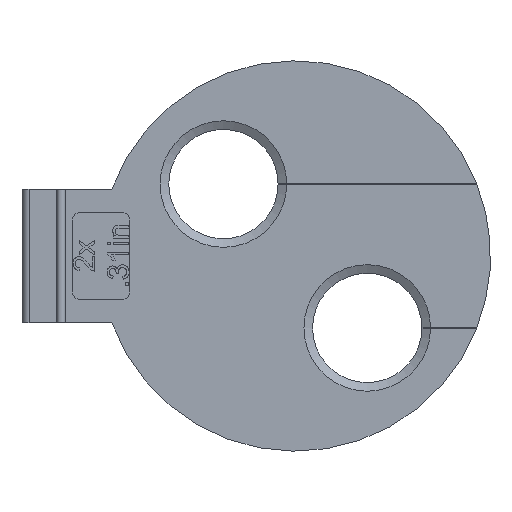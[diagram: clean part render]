
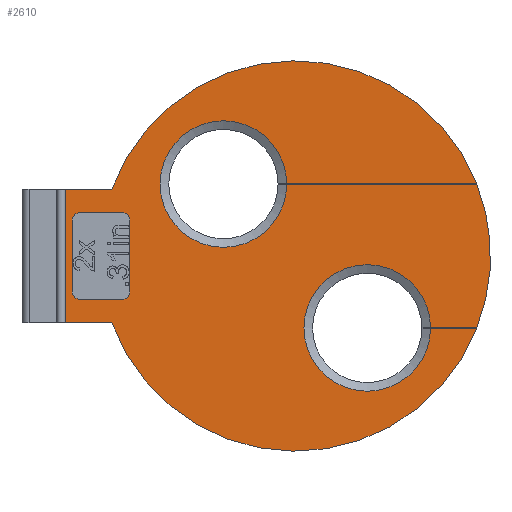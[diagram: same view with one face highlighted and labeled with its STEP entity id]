
A CAD part, left-side view. The second image highlights one B-rep face of the part: STEP entity #2610.
In plain terms, the highlighted planar face has unit normal (-1, 0, 0).
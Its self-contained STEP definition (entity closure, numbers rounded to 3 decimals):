
#40=FACE_BOUND('',#466,.T.);
#42=CIRCLE('',#2697,0.5);
#44=CIRCLE('',#2701,0.5);
#46=CIRCLE('',#2705,0.5);
#48=CIRCLE('',#2709,0.5);
#58=CIRCLE('',#2732,13.57);
#61=CIRCLE('',#2736,13.57);
#62=CIRCLE('',#2738,13.57);
#70=CIRCLE('',#2751,4.4);
#73=CIRCLE('',#2757,4.4);
#320=FACE_OUTER_BOUND('',#465,.T.);
#465=EDGE_LOOP('',(#2336,#2337,#2338,#2339,#2340,#2341,#2342,#2343,#2344,
#2345,#2346,#2347));
#466=EDGE_LOOP('',(#2348,#2349,#2350,#2351,#2352,#2353,#2354,#2355));
#648=LINE('',#4243,#915);
#652=LINE('',#4255,#919);
#656=LINE('',#4267,#923);
#660=LINE('',#4277,#927);
#665=LINE('',#4290,#932);
#675=LINE('',#4319,#942);
#683=LINE('',#4336,#950);
#693=LINE('',#4365,#960);
#704=LINE('',#4443,#971);
#726=LINE('',#4499,#993);
#732=LINE('',#4510,#999);
#915=VECTOR('',#3076,10.);
#919=VECTOR('',#3088,10.);
#923=VECTOR('',#3100,10.);
#927=VECTOR('',#3112,10.);
#932=VECTOR('',#3121,10.);
#942=VECTOR('',#3133,10.);
#950=VECTOR('',#3143,10.);
#960=VECTOR('',#3155,10.);
#971=VECTOR('',#3254,10.);
#993=VECTOR('',#3298,10.);
#999=VECTOR('',#3314,10.);
#1168=VERTEX_POINT('',#4234);
#1169=VERTEX_POINT('',#4236);
#1171=VERTEX_POINT('',#4242);
#1173=VERTEX_POINT('',#4248);
#1175=VERTEX_POINT('',#4254);
#1177=VERTEX_POINT('',#4260);
#1179=VERTEX_POINT('',#4266);
#1181=VERTEX_POINT('',#4272);
#1186=VERTEX_POINT('',#4287);
#1187=VERTEX_POINT('',#4289);
#1198=VERTEX_POINT('',#4316);
#1199=VERTEX_POINT('',#4318);
#1206=VERTEX_POINT('',#4333);
#1207=VERTEX_POINT('',#4335);
#1218=VERTEX_POINT('',#4362);
#1219=VERTEX_POINT('',#4364);
#1222=VERTEX_POINT('',#4387);
#1225=VERTEX_POINT('',#4395);
#1236=VERTEX_POINT('',#4441);
#1259=VERTEX_POINT('',#4498);
#1499=EDGE_CURVE('',#1169,#1168,#42,.T.);
#1502=EDGE_CURVE('',#1171,#1169,#648,.T.);
#1505=EDGE_CURVE('',#1173,#1171,#44,.T.);
#1508=EDGE_CURVE('',#1175,#1173,#652,.T.);
#1511=EDGE_CURVE('',#1177,#1175,#46,.T.);
#1514=EDGE_CURVE('',#1179,#1177,#656,.T.);
#1517=EDGE_CURVE('',#1181,#1179,#48,.T.);
#1520=EDGE_CURVE('',#1168,#1181,#660,.T.);
#1525=EDGE_CURVE('',#1187,#1186,#665,.T.);
#1537=EDGE_CURVE('',#1199,#1198,#675,.T.);
#1545=EDGE_CURVE('',#1207,#1206,#683,.T.);
#1557=EDGE_CURVE('',#1219,#1218,#693,.T.);
#1570=EDGE_CURVE('',#1207,#1222,#58,.T.);
#1575=EDGE_CURVE('',#1225,#1198,#61,.T.);
#1576=EDGE_CURVE('',#1187,#1218,#62,.T.);
#1590=EDGE_CURVE('',#1186,#1199,#70,.T.);
#1593=EDGE_CURVE('',#1206,#1219,#73,.T.);
#1596=EDGE_CURVE('',#1225,#1236,#704,.T.);
#1625=EDGE_CURVE('',#1259,#1222,#726,.T.);
#1631=EDGE_CURVE('',#1236,#1259,#732,.T.);
#2336=ORIENTED_EDGE('',*,*,#1525,.T.);
#2337=ORIENTED_EDGE('',*,*,#1590,.T.);
#2338=ORIENTED_EDGE('',*,*,#1537,.T.);
#2339=ORIENTED_EDGE('',*,*,#1575,.F.);
#2340=ORIENTED_EDGE('',*,*,#1596,.T.);
#2341=ORIENTED_EDGE('',*,*,#1631,.T.);
#2342=ORIENTED_EDGE('',*,*,#1625,.T.);
#2343=ORIENTED_EDGE('',*,*,#1570,.F.);
#2344=ORIENTED_EDGE('',*,*,#1545,.T.);
#2345=ORIENTED_EDGE('',*,*,#1593,.T.);
#2346=ORIENTED_EDGE('',*,*,#1557,.T.);
#2347=ORIENTED_EDGE('',*,*,#1576,.F.);
#2348=ORIENTED_EDGE('',*,*,#1499,.T.);
#2349=ORIENTED_EDGE('',*,*,#1520,.T.);
#2350=ORIENTED_EDGE('',*,*,#1517,.T.);
#2351=ORIENTED_EDGE('',*,*,#1514,.T.);
#2352=ORIENTED_EDGE('',*,*,#1511,.T.);
#2353=ORIENTED_EDGE('',*,*,#1508,.T.);
#2354=ORIENTED_EDGE('',*,*,#1505,.T.);
#2355=ORIENTED_EDGE('',*,*,#1502,.T.);
#2476=PLANE('',#2776);
#2610=ADVANCED_FACE('',(#320,#40),#2476,.F.);
#2697=AXIS2_PLACEMENT_3D('',#4237,#3070,#3071);
#2701=AXIS2_PLACEMENT_3D('',#4249,#3082,#3083);
#2705=AXIS2_PLACEMENT_3D('',#4261,#3094,#3095);
#2709=AXIS2_PLACEMENT_3D('',#4273,#3106,#3107);
#2732=AXIS2_PLACEMENT_3D('',#4388,#3191,#3192);
#2736=AXIS2_PLACEMENT_3D('',#4397,#3201,#3202);
#2738=AXIS2_PLACEMENT_3D('',#4399,#3205,#3206);
#2751=AXIS2_PLACEMENT_3D('',#4430,#3235,#3236);
#2757=AXIS2_PLACEMENT_3D('',#4436,#3247,#3248);
#2776=AXIS2_PLACEMENT_3D('',#4511,#3315,#3316);
#3070=DIRECTION('center_axis',(1.,0.,0.));
#3071=DIRECTION('ref_axis',(0.,-1.,0.));
#3076=DIRECTION('',(0.,1.,0.));
#3082=DIRECTION('center_axis',(1.,0.,0.));
#3083=DIRECTION('ref_axis',(0.,0.,1.));
#3088=DIRECTION('',(0.,0.,-1.));
#3094=DIRECTION('center_axis',(1.,0.,0.));
#3095=DIRECTION('ref_axis',(0.,1.,0.));
#3100=DIRECTION('',(0.,-1.,0.));
#3106=DIRECTION('center_axis',(1.,0.,0.));
#3107=DIRECTION('ref_axis',(0.,0.,-1.));
#3112=DIRECTION('',(0.,0.,1.));
#3121=DIRECTION('',(0.,1.,0.));
#3133=DIRECTION('',(0.,-1.,0.));
#3143=DIRECTION('',(0.,1.,0.));
#3155=DIRECTION('',(0.,-1.,0.));
#3191=DIRECTION('center_axis',(1.,0.,0.));
#3192=DIRECTION('ref_axis',(0.,0.,-1.));
#3201=DIRECTION('center_axis',(1.,0.,0.));
#3202=DIRECTION('ref_axis',(0.,0.,-1.));
#3205=DIRECTION('center_axis',(1.,0.,0.));
#3206=DIRECTION('ref_axis',(0.,0.,-1.));
#3235=DIRECTION('center_axis',(1.,0.,0.));
#3236=DIRECTION('ref_axis',(0.,0.,-1.));
#3247=DIRECTION('center_axis',(1.,0.,0.));
#3248=DIRECTION('ref_axis',(0.,0.,1.));
#3254=DIRECTION('',(0.,1.,0.));
#3298=DIRECTION('',(0.,-1.,0.));
#3314=DIRECTION('',(0.,0.,-1.));
#3315=DIRECTION('center_axis',(1.,0.,0.));
#3316=DIRECTION('ref_axis',(0.,0.,-1.));
#4234=CARTESIAN_POINT('',(-0.8,15.5,-2.5));
#4236=CARTESIAN_POINT('',(-0.8,15.,-3.));
#4237=CARTESIAN_POINT('Origin',(-0.8,15.,-2.5));
#4242=CARTESIAN_POINT('',(-0.8,12.,-3.));
#4243=CARTESIAN_POINT('',(-0.8,7.5,-3.));
#4248=CARTESIAN_POINT('',(-0.8,11.5,-2.5));
#4249=CARTESIAN_POINT('Origin',(-0.8,12.,-2.5));
#4254=CARTESIAN_POINT('',(-0.8,11.5,2.5));
#4255=CARTESIAN_POINT('',(-0.8,11.5,-1.25));
#4260=CARTESIAN_POINT('',(-0.8,12.,3.));
#4261=CARTESIAN_POINT('Origin',(-0.8,12.,2.5));
#4266=CARTESIAN_POINT('',(-0.8,15.,3.));
#4267=CARTESIAN_POINT('',(-0.8,6.,3.));
#4272=CARTESIAN_POINT('',(-0.8,15.5,2.5));
#4273=CARTESIAN_POINT('Origin',(-0.8,15.,2.5));
#4277=CARTESIAN_POINT('',(-0.8,15.5,1.25));
#4287=CARTESIAN_POINT('',(-0.8,0.6,4.995));
#4289=CARTESIAN_POINT('',(-0.8,-12.617,4.995));
#4290=CARTESIAN_POINT('',(-0.8,-6.309,4.995));
#4316=CARTESIAN_POINT('',(-0.8,-12.613,5.005));
#4318=CARTESIAN_POINT('',(-0.8,0.6,5.005));
#4319=CARTESIAN_POINT('',(-0.8,0.6,5.005));
#4333=CARTESIAN_POINT('',(-0.8,-9.4,-5.005));
#4335=CARTESIAN_POINT('',(-0.8,-12.613,-5.005));
#4336=CARTESIAN_POINT('',(-0.8,-6.307,-5.005));
#4362=CARTESIAN_POINT('',(-0.8,-12.617,-4.995));
#4364=CARTESIAN_POINT('',(-0.8,-9.4,-4.995));
#4365=CARTESIAN_POINT('',(-0.8,-4.4,-4.995));
#4387=CARTESIAN_POINT('',(-0.8,12.748,-4.65));
#4388=CARTESIAN_POINT('Origin',(-0.8,0.,0.));
#4395=CARTESIAN_POINT('',(-0.8,12.748,4.65));
#4397=CARTESIAN_POINT('Origin',(-0.8,0.,0.));
#4399=CARTESIAN_POINT('Origin',(-0.8,0.,0.));
#4430=CARTESIAN_POINT('Origin',(-0.8,5.,5.));
#4436=CARTESIAN_POINT('Origin',(-0.8,-5.,-5.));
#4441=CARTESIAN_POINT('',(-0.8,16.,4.65));
#4443=CARTESIAN_POINT('',(-0.8,15.618,4.65));
#4498=CARTESIAN_POINT('',(-0.8,16.,-4.65));
#4499=CARTESIAN_POINT('',(-0.8,13.655,-4.65));
#4510=CARTESIAN_POINT('',(-0.8,16.,2.325));
#4511=CARTESIAN_POINT('Origin',(-0.8,0.,0.));
